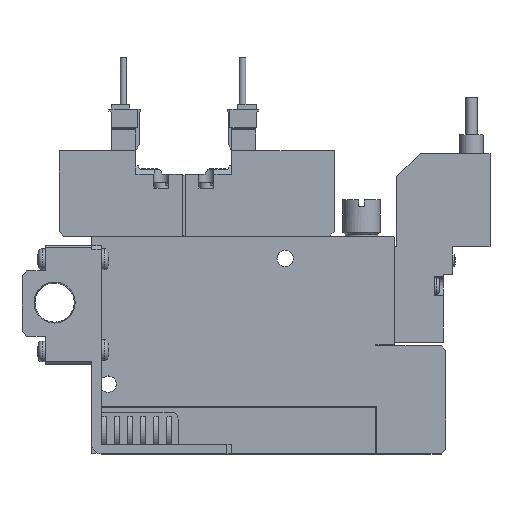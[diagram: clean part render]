
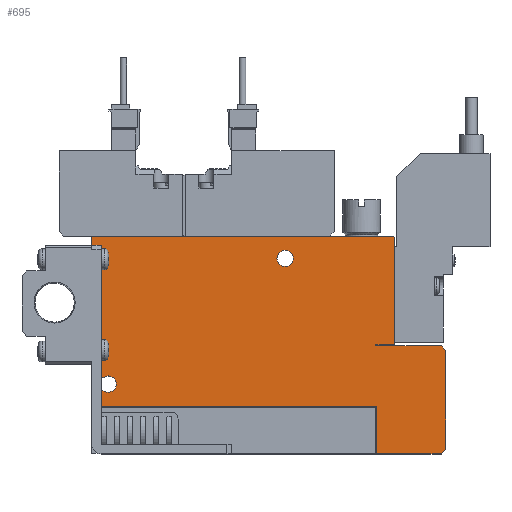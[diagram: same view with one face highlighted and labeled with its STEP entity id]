
A CAD part, top view. The second image highlights one B-rep face of the part: STEP entity #695.
In plain terms, the highlighted planar face has unit normal (0, 0, 1).
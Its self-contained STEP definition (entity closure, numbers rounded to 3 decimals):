
#695=ADVANCED_FACE('',(#1695,#1696,#1697),#1698,.F.);
#1695=FACE_OUTER_BOUND('',#2962,.T.);
#1696=FACE_BOUND('',#2963,.T.);
#1697=FACE_BOUND('',#2964,.T.);
#1698=PLANE('',#2965);
#2962=EDGE_LOOP('',(#6468,#6469,#6470,#6471,#6472,#6473,#6474,#6475,#6476,#6477,#6478,#6479,#6480,#6481));
#2963=EDGE_LOOP('',(#6482));
#2964=EDGE_LOOP('',(#6483));
#2965=AXIS2_PLACEMENT_3D('',#6484,#6485,#6486);
#6468=ORIENTED_EDGE('',*,*,#9157,.T.);
#6469=ORIENTED_EDGE('',*,*,#8880,.F.);
#6470=ORIENTED_EDGE('',*,*,#9158,.F.);
#6471=ORIENTED_EDGE('',*,*,#9075,.T.);
#6472=ORIENTED_EDGE('',*,*,#9159,.T.);
#6473=ORIENTED_EDGE('',*,*,#9160,.T.);
#6474=ORIENTED_EDGE('',*,*,#9161,.T.);
#6475=ORIENTED_EDGE('',*,*,#9162,.T.);
#6476=ORIENTED_EDGE('',*,*,#9163,.T.);
#6477=ORIENTED_EDGE('',*,*,#9164,.T.);
#6478=ORIENTED_EDGE('',*,*,#8895,.T.);
#6479=ORIENTED_EDGE('',*,*,#9165,.T.);
#6480=ORIENTED_EDGE('',*,*,#9061,.T.);
#6481=ORIENTED_EDGE('',*,*,#9082,.T.);
#6482=ORIENTED_EDGE('',*,*,#9166,.F.);
#6483=ORIENTED_EDGE('',*,*,#9167,.F.);
#6484=CARTESIAN_POINT('',(0.0,0.0,5.0));
#6485=DIRECTION('',(0.0,0.0,-1.0));
#6486=DIRECTION('',(0.0,-1.0,0.0));
#8880=EDGE_CURVE('',#10889,#10890,#10891,.T.);
#8895=EDGE_CURVE('',#10920,#10918,#10921,.T.);
#9061=EDGE_CURVE('',#11232,#11230,#11233,.T.);
#9075=EDGE_CURVE('',#11249,#11253,#11255,.T.);
#9082=EDGE_CURVE('',#11230,#11264,#11266,.T.);
#9157=EDGE_CURVE('',#11264,#10890,#11385,.T.);
#9158=EDGE_CURVE('',#11249,#10889,#11386,.T.);
#9159=EDGE_CURVE('',#11253,#11387,#11388,.T.);
#9160=EDGE_CURVE('',#11387,#11389,#11390,.T.);
#9161=EDGE_CURVE('',#11389,#11391,#11392,.T.);
#9162=EDGE_CURVE('',#11391,#11393,#11394,.T.);
#9163=EDGE_CURVE('',#11393,#11395,#11396,.T.);
#9164=EDGE_CURVE('',#11395,#10920,#11397,.T.);
#9165=EDGE_CURVE('',#10918,#11232,#11398,.T.);
#9166=EDGE_CURVE('',#11399,#11399,#11400,.T.);
#9167=EDGE_CURVE('',#11401,#11401,#11402,.T.);
#10889=VERTEX_POINT('',#14224);
#10890=VERTEX_POINT('',#14225);
#10891=LINE('',#14226,#14227);
#10918=VERTEX_POINT('',#14266);
#10920=VERTEX_POINT('',#14269);
#10921=LINE('',#14270,#14271);
#11230=VERTEX_POINT('',#14811);
#11232=VERTEX_POINT('',#14814);
#11233=LINE('',#14815,#14816);
#11249=VERTEX_POINT('',#14849);
#11253=VERTEX_POINT('',#14855);
#11255=LINE('',#14858,#14859);
#11264=VERTEX_POINT('',#14881);
#11266=LINE('',#14884,#14885);
#11385=LINE('',#15079,#15080);
#11386=LINE('',#15081,#15082);
#11387=VERTEX_POINT('',#15083);
#11388=LINE('',#15084,#15085);
#11389=VERTEX_POINT('',#15086);
#11390=LINE('',#15087,#15088);
#11391=VERTEX_POINT('',#15089);
#11392=LINE('',#15090,#15091);
#11393=VERTEX_POINT('',#15092);
#11394=LINE('',#15093,#15094);
#11395=VERTEX_POINT('',#15095);
#11396=LINE('',#15096,#15097);
#11397=LINE('',#15098,#15099);
#11398=LINE('',#15100,#15101);
#11399=VERTEX_POINT('',#15102);
#11400=CIRCLE('',#15103,1.75);
#11401=VERTEX_POINT('',#15104);
#11402=CIRCLE('',#15105,1.75);
#14224=CARTESIAN_POINT('',(61.1,10.1,5.0));
#14225=CARTESIAN_POINT('',(0.0,10.1,5.0));
#14226=CARTESIAN_POINT('',(61.1,10.1,5.0));
#14227=VECTOR('',#17416,1.0);
#14266=CARTESIAN_POINT('',(65.0,46.4,5.0));
#14269=CARTESIAN_POINT('',(65.0,23.5,5.0));
#14270=CARTESIAN_POINT('',(65.0,23.5,5.0));
#14271=VECTOR('',#17433,1.0);
#14811=CARTESIAN_POINT('',(0.2,46.6,5.0));
#14814=CARTESIAN_POINT('',(64.8,46.6,5.0));
#14815=CARTESIAN_POINT('',(64.8,46.6,5.0));
#14816=VECTOR('',#17657,1.0);
#14849=CARTESIAN_POINT('',(61.1,0.0,5.0));
#14855=CARTESIAN_POINT('',(75.0,0.0,5.0));
#14858=CARTESIAN_POINT('',(0.0,0.0,5.0));
#14859=VECTOR('',#17674,1.0);
#14881=CARTESIAN_POINT('',(0.0,46.4,5.0));
#14884=CARTESIAN_POINT('',(0.2,46.6,5.0));
#14885=VECTOR('',#17680,1.0);
#15079=CARTESIAN_POINT('',(0.0,46.4,5.0));
#15080=VECTOR('',#17785,1.0);
#15081=CARTESIAN_POINT('',(61.1,0.0,5.0));
#15082=VECTOR('',#17786,1.0);
#15083=CARTESIAN_POINT('',(76.0,1.0,5.0));
#15084=CARTESIAN_POINT('',(75.0,0.0,5.0));
#15085=VECTOR('',#17787,1.0);
#15086=CARTESIAN_POINT('',(76.0,22.25,5.0));
#15087=CARTESIAN_POINT('',(76.0,1.0,5.0));
#15088=VECTOR('',#17788,1.0);
#15089=CARTESIAN_POINT('',(75.0,23.25,5.0));
#15090=CARTESIAN_POINT('',(76.0,22.25,5.0));
#15091=VECTOR('',#17789,1.0);
#15092=CARTESIAN_POINT('',(61.0,23.25,5.0));
#15093=CARTESIAN_POINT('',(75.0,23.25,5.0));
#15094=VECTOR('',#17790,1.0);
#15095=CARTESIAN_POINT('',(61.0,23.5,5.0));
#15096=CARTESIAN_POINT('',(61.0,23.25,5.0));
#15097=VECTOR('',#17791,1.0);
#15098=CARTESIAN_POINT('',(61.0,23.5,5.0));
#15099=VECTOR('',#17792,1.0);
#15100=CARTESIAN_POINT('',(65.0,46.4,5.0));
#15101=VECTOR('',#17793,1.0);
#15102=CARTESIAN_POINT('',(5.25,15.0,5.0));
#15103=AXIS2_PLACEMENT_3D('',#17794,#17795,#17796);
#15104=CARTESIAN_POINT('',(43.25,42.0,5.0));
#15105=AXIS2_PLACEMENT_3D('',#17797,#17798,#17799);
#17416=DIRECTION('',(-1.0,0.0,0.0));
#17433=DIRECTION('',(0.0,1.0,0.0));
#17657=DIRECTION('',(-1.0,0.0,0.0));
#17674=DIRECTION('',(1.0,0.0,0.0));
#17680=DIRECTION('',(-0.707,-0.707,0.0));
#17785=DIRECTION('',(0.0,-1.0,0.0));
#17786=DIRECTION('',(0.0,1.0,0.0));
#17787=DIRECTION('',(0.707,0.707,0.0));
#17788=DIRECTION('',(0.0,1.0,0.0));
#17789=DIRECTION('',(-0.707,0.707,0.0));
#17790=DIRECTION('',(-1.0,0.0,0.0));
#17791=DIRECTION('',(0.0,1.0,0.0));
#17792=DIRECTION('',(1.0,0.,0.0));
#17793=DIRECTION('',(-0.707,0.707,0.0));
#17794=CARTESIAN_POINT('',(3.5,15.0,5.0));
#17795=DIRECTION('',(0.0,0.0,1.0));
#17796=DIRECTION('',(1.0,0.0,0.0));
#17797=CARTESIAN_POINT('',(41.5,42.0,5.0));
#17798=DIRECTION('',(0.0,0.0,1.0));
#17799=DIRECTION('',(1.0,0.0,0.0));
